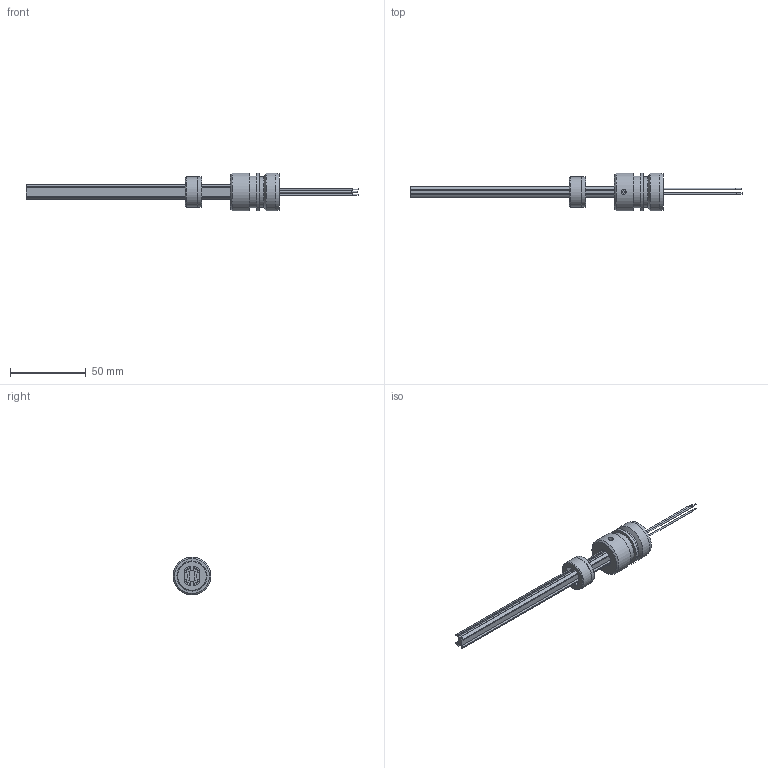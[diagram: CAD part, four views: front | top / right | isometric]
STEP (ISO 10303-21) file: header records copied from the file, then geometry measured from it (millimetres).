
FILE_DESCRIPTION(('FreeCAD Model'),'2;1');
FILE_NAME('Open CASCADE Shape Model','2025-02-07T10:01:02',(''),(''), 'Open CASCADE STEP processor 7.6','FreeCAD','Unknown');
FILE_SCHEMA(('AUTOMOTIVE_DESIGN { 1 0 10303 214 1 1 1 1 }'));
Length unit declared in the file: millimetre
Products named in the file (1): CH37 150 I K
Bounding box: 218.7 x 25 x 25 mm (x, y, z)
Volume: 19629.5 mm3; surface area: 13401.3 mm2
Topology: 1 solids, 1 shells, 147 faces, 361 edges, 236 vertices
Faces by surface type: plane 78, cylinder 60, cone 9
Full cylindrical faces by diameter (mm): 0.8 x6, 1 x3, 3.3 x2, 7.48 x1, 10.5 x2, 17.9 x1, 19.8 x1, 19.9 x1, 20 x1, 20.9 x1, 25 x3
Entity records: 4373 total; most frequent: CARTESIAN_POINT 830, DIRECTION 738, ORIENTED_EDGE 718, EDGE_CURVE 359, AXIS2_PLACEMENT_3D 271, VERTEX_POINT 236, LINE 196, VECTOR 196
